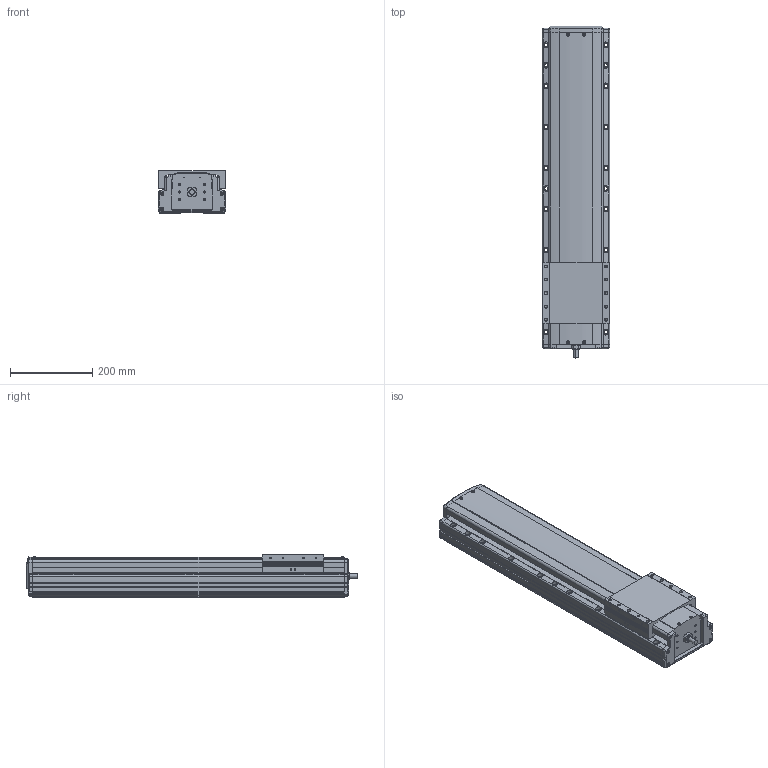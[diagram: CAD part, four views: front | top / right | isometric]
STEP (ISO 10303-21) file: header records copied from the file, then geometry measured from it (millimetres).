
FILE_DESCRIPTION(('STEP AP214'),'1');
FILE_NAME('Z:/Web/3D/PSA165/STP/PSA165-500 (3D)/PSA165ㅁㅁ-500.stp','2014-06-23T11:15:47',(' '),(' '),'Spatial InterOp 3D',' ',' ');
FILE_SCHEMA(('automotive_design'));
Length unit declared in the file: millimetre
Products named in the file (18): 스크루 : Round - M4.0 x 12.0; RRCV-PA160; BASE; 스크루 : Round - M4.0 x 10.0; RN15; Screw 20; SLIDE; FRCV
Bounding box: 165 x 808.8 x 104 mm (x, y, z)
Volume: 10816858.7 mm3; surface area: 718164.9 mm2
Topology: 18 solids, 18 shells, 1895 faces, 5145 edges, 3285 vertices
Faces by surface type: plane 1040, cylinder 613, cone 169, sphere 32, bspline 25, torus 16
Entity records: 77756 total; most frequent: CARTESIAN_POINT 14225, DIRECTION 10053, ORIENTED_EDGE 10038, EDGE_CURVE 5019, LINE 3399, VECTOR 3399, AXIS2_PLACEMENT_3D 3327, VERTEX_POINT 3285
